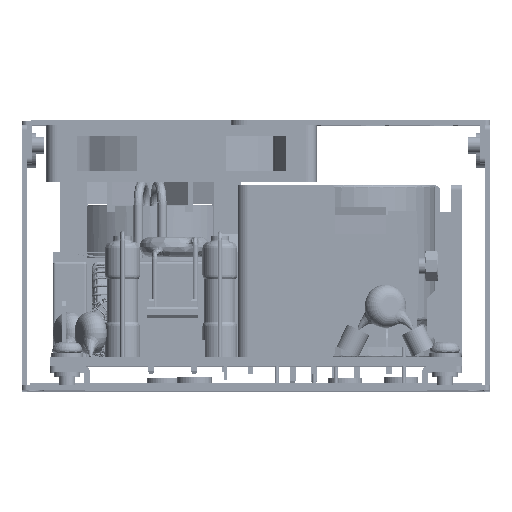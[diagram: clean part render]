
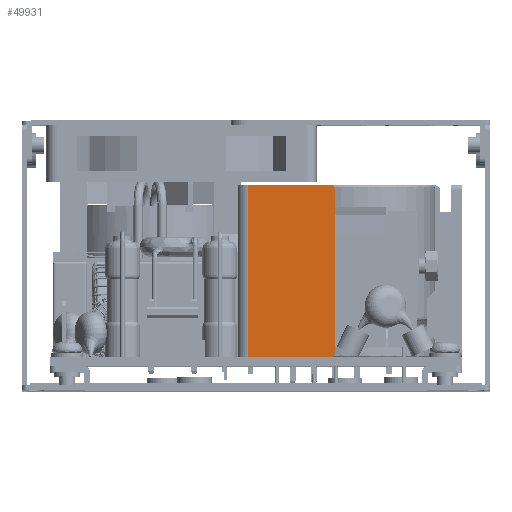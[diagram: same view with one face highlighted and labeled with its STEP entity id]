
A CAD part, top view. The second image highlights one B-rep face of the part: STEP entity #49931.
In plain terms, the highlighted planar face has unit normal (0, 0, 1) as drawn and (-1, 0, 0) by its records, which use the part's own axes.
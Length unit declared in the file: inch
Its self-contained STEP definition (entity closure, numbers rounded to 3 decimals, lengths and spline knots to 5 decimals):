
#3024 = FACE_OUTER_BOUND ( 'NONE', #219732, .T. ) ;
#5392 = DIRECTION ( 'NONE',  ( 0., -1., 0. ) ) ;
#15795 = DIRECTION ( 'NONE',  ( 1., 0., 0. ) ) ;
#15942 = VERTEX_POINT ( 'NONE', #193363 ) ;
#20687 = EDGE_CURVE ( 'NONE', #67303, #115110, #159636, .T. ) ;
#22260 = LINE ( 'NONE', #191772, #102128 ) ;
#23364 = CARTESIAN_POINT ( 'NONE',  ( 0., 1.25984, -0.07874 ) ) ;
#31771 = ORIENTED_EDGE ( 'NONE', *, *, #140170, .F. ) ;
#42342 = DIRECTION ( 'NONE',  ( 1., 0., 0. ) ) ;
#49931 = ADVANCED_FACE ( 'NONE', ( #3024 ), #136376, .F. ) ;
#50590 = ORIENTED_EDGE ( 'NONE', *, *, #20687, .F. ) ;
#51855 = CARTESIAN_POINT ( 'NONE',  ( 0., 0., -0.07874 ) ) ;
#52577 = VECTOR ( 'NONE', #160787, 39.37008 ) ;
#61620 = LINE ( 'NONE', #182485, #70398 ) ;
#65156 = CARTESIAN_POINT ( 'NONE',  ( 0., 1.25984, -0.07874 ) ) ;
#67303 = VERTEX_POINT ( 'NONE', #191327 ) ;
#70398 = VECTOR ( 'NONE', #128044, 39.37008 ) ;
#85300 = ORIENTED_EDGE ( 'NONE', *, *, #241528, .F. ) ;
#87571 = LINE ( 'NONE', #51855, #231907 ) ;
#92386 = CARTESIAN_POINT ( 'NONE',  ( 0., 0., 0. ) ) ;
#99351 = DIRECTION ( 'NONE',  ( 0., 0., -1. ) ) ;
#102128 = VECTOR ( 'NONE', #5392, 39.37008 ) ;
#112754 = VERTEX_POINT ( 'NONE', #221611 ) ;
#115110 = VERTEX_POINT ( 'NONE', #134140 ) ;
#126262 = EDGE_CURVE ( 'NONE', #112754, #140754, #87571, .T. ) ;
#126472 = LINE ( 'NONE', #65156, #52577 ) ;
#128044 = DIRECTION ( 'NONE',  ( 0., 1., 0. ) ) ;
#130411 = DIRECTION ( 'NONE',  ( 0., 0., 1. ) ) ;
#134140 = CARTESIAN_POINT ( 'NONE',  ( 0., 1.22047, 0.62992 ) ) ;
#134738 = AXIS2_PLACEMENT_3D ( 'NONE', #222691, #15795, #130411 ) ;
#136376 = PLANE ( 'NONE',  #168173 ) ;
#140170 = EDGE_CURVE ( 'NONE', #115110, #15942, #22260, .T. ) ;
#140754 = VERTEX_POINT ( 'NONE', #92386 ) ;
#146133 = ORIENTED_EDGE ( 'NONE', *, *, #156730, .F. ) ;
#156730 = EDGE_CURVE ( 'NONE', #15942, #112754, #190663, .T. ) ;
#158695 = ORIENTED_EDGE ( 'NONE', *, *, #166531, .F. ) ;
#159636 = CIRCLE ( 'NONE', #162072, 0.03937 ) ;
#160787 = DIRECTION ( 'NONE',  ( 0., 0., 1. ) ) ;
#162072 = AXIS2_PLACEMENT_3D ( 'NONE', #223700, #242592, #188318 ) ;
#166531 = EDGE_CURVE ( 'NONE', #190607, #67303, #126472, .T. ) ;
#168173 = AXIS2_PLACEMENT_3D ( 'NONE', #23364, #42342, #99351 ) ;
#181499 = CARTESIAN_POINT ( 'NONE',  ( 0., 1.25984, 0. ) ) ;
#182485 = CARTESIAN_POINT ( 'NONE',  ( 0., 0., 0. ) ) ;
#186560 = DIRECTION ( 'NONE',  ( 0., 0., -1. ) ) ;
#188318 = DIRECTION ( 'NONE',  ( 0., 0., 1. ) ) ;
#190607 = VERTEX_POINT ( 'NONE', #181499 ) ;
#190663 = CIRCLE ( 'NONE', #134738, 0.03937 ) ;
#191327 = CARTESIAN_POINT ( 'NONE',  ( 0., 1.25984, 0.59055 ) ) ;
#191772 = CARTESIAN_POINT ( 'NONE',  ( 0., 1.25984, 0.62992 ) ) ;
#193363 = CARTESIAN_POINT ( 'NONE',  ( 0., 0.03937, 0.62992 ) ) ;
#216168 = ORIENTED_EDGE ( 'NONE', *, *, #126262, .F. ) ;
#219732 = EDGE_LOOP ( 'NONE', ( #85300, #216168, #146133, #31771, #50590, #158695 ) ) ;
#221611 = CARTESIAN_POINT ( 'NONE',  ( 0., 0., 0.59055 ) ) ;
#222691 = CARTESIAN_POINT ( 'NONE',  ( 0., 0.03937, 0.59055 ) ) ;
#223700 = CARTESIAN_POINT ( 'NONE',  ( 0., 1.22047, 0.59055 ) ) ;
#231907 = VECTOR ( 'NONE', #186560, 39.37008 ) ;
#241528 = EDGE_CURVE ( 'NONE', #140754, #190607, #61620, .T. ) ;
#242592 = DIRECTION ( 'NONE',  ( 1., 0., 0. ) ) ;
